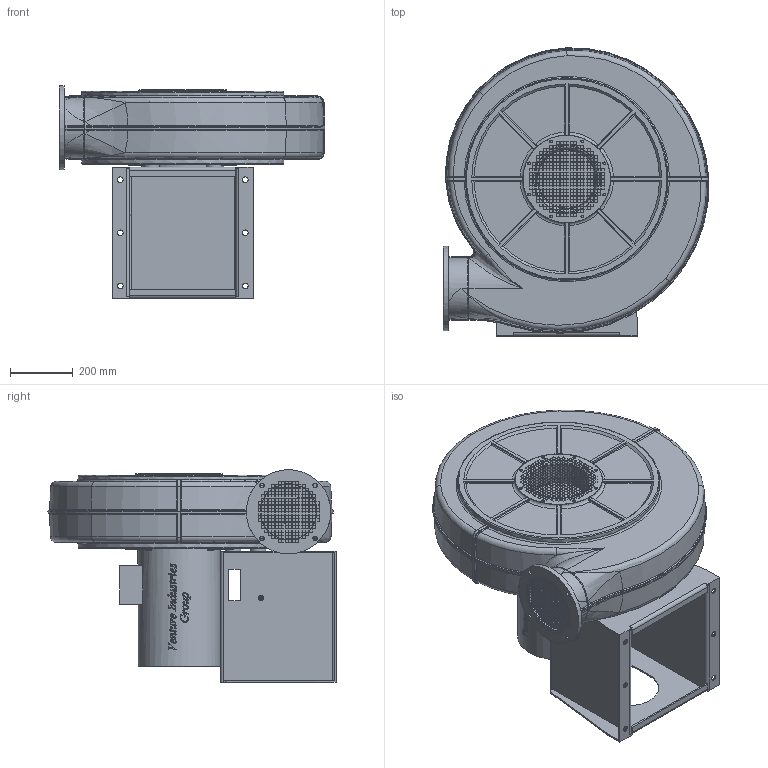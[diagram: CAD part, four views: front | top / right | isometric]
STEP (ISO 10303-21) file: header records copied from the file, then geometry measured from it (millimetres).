
FILE_DESCRIPTION(/* description */ (''),/* implementation_level */ '2;1');
FILE_NAME(/* name */ 'E:\Mariusz\Modele uproszczone\EBA\EBA 600 132\EBA_X_600T LG270 132 45519801\EBA_X_600T LG270 132 45519801.stp',/* time_stamp */ '2020-01-30T16:39:49+01:00',/* author */ ('M.Janczarek'),/* organization */ (''),/* preprocessor_version */ 'ST-DEVELOPER v16.13',/* originating_system */ 'Autodesk Inventor 2018',/* authorisation */ '');
FILE_SCHEMA (('AUTOMOTIVE_DESIGN { 1 0 10303 214 3 1 1 }'));
Products named in the file (1): EBA_X_600T LG270 132 45519801
Bounding box: 851.18 x 921.99 x 681 mm (x, y, z)
Volume: 151004331.7 mm3; surface area: 3908293.4 mm2
Topology: 1 solids, 1 shells, 4248 faces, 12142 edges, 7881 vertices
Faces by surface type: plane 3095, bspline 758, cylinder 220, cone 93, torus 54, sphere 28
Full cylindrical faces by diameter (mm): 6.647 x8, 8 x3, 8.4 x2, 9.2 x8, 11.4 x2, 13 x4, 14 x4, 16 x3, 18 x6, 264 x1, 270 x2, 280 x1, 648 x2
Entity records: 159621 total; most frequent: CARTESIAN_POINT 47921, ORIENTED_EDGE 24076, DIRECTION 18649, EDGE_CURVE 12037, LINE 9403, VECTOR 9403, VERTEX_POINT 7861, EDGE_LOOP 5515
